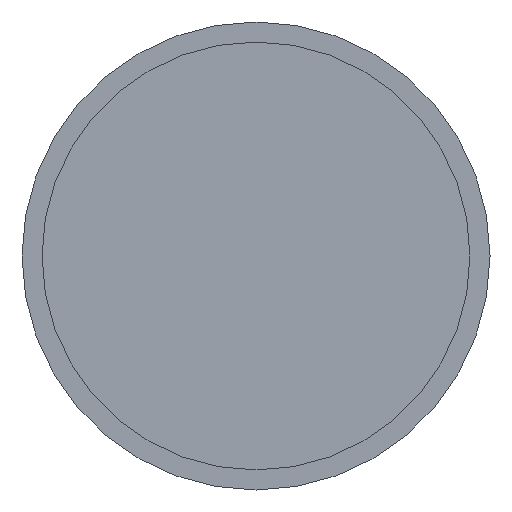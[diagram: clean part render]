
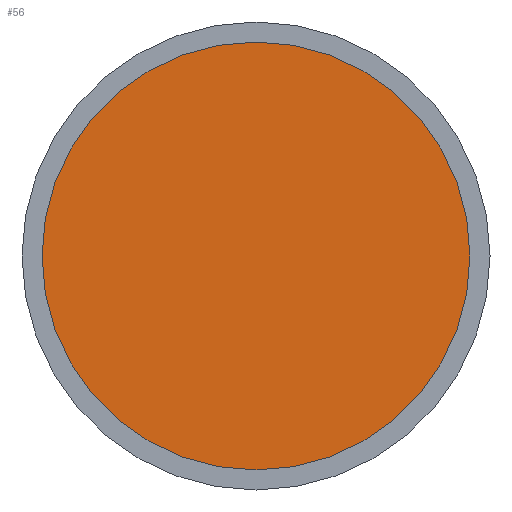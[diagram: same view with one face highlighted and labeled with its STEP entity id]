
A CAD part, front view. The second image highlights one B-rep face of the part: STEP entity #56.
In plain terms, the highlighted planar face has unit normal (0, -1, 0).
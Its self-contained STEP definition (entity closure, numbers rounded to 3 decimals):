
#56=ADVANCED_FACE('',(#93),#95,.T.);
#93=FACE_BOUND('',#94,.T.);
#94=EDGE_LOOP('',(#204));
#95=PLANE('',#96);
#96=AXIS2_PLACEMENT_3D('',#97,#98,#99);
#97=CARTESIAN_POINT('',(0.,-62.,0.));
#98=DIRECTION('',(0.,-1.,0.));
#99=DIRECTION('',(0.,0.,-1.));
#204=ORIENTED_EDGE('',*,*,#229,.T.);
#229=EDGE_CURVE('',#244,#244,#245,.T.);
#244=VERTEX_POINT('',#274);
#245=CIRCLE('',#275,16.);
#274=CARTESIAN_POINT('',(0.,-62.,16.));
#275=AXIS2_PLACEMENT_3D('',#276,#277,#278);
#276=CARTESIAN_POINT('',(0.,-62.,0.));
#277=DIRECTION('',(0.,-1.,0.));
#278=DIRECTION('',(0.,0.,1.));
